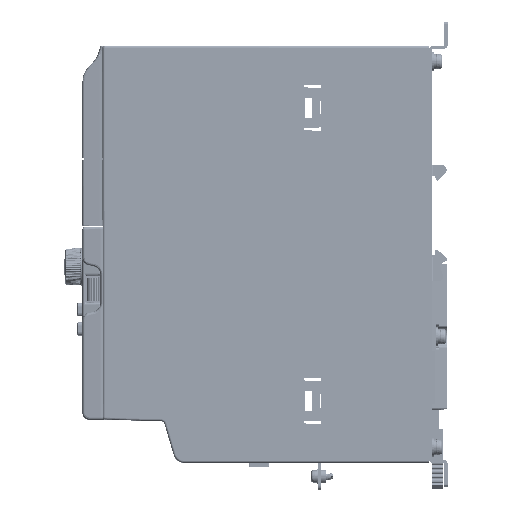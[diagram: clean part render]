
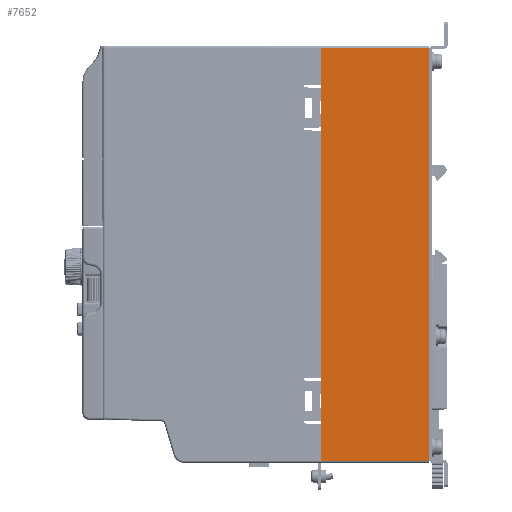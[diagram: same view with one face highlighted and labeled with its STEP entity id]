
A CAD part, left-side view. The second image highlights one B-rep face of the part: STEP entity #7652.
In plain terms, the highlighted planar face has unit normal (-1, 0, 0).
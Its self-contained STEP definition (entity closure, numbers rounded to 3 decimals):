
#1113=DIRECTION('',(0.,1.,0.));
#1114=VECTOR('',#1113,47.5);
#1115=CARTESIAN_POINT('',(-47.5,-47.5,91.5));
#1116=LINE('',#1115,#1114);
#3706=DIRECTION('',(0.,0.,-1.));
#3707=VECTOR('',#3706,183.);
#3708=CARTESIAN_POINT('',(-47.5,-47.5,91.5));
#3709=LINE('',#3708,#3707);
#3713=DIRECTION('',(0.,0.,1.));
#3714=VECTOR('',#3713,183.);
#3715=CARTESIAN_POINT('',(-47.5,0.,-91.5));
#3716=LINE('',#3715,#3714);
#3727=DIRECTION('',(0.,-1.,0.));
#3728=VECTOR('',#3727,47.5);
#3729=CARTESIAN_POINT('',(-47.5,0.,-91.5));
#3730=LINE('',#3729,#3728);
#4193=CARTESIAN_POINT('',(-47.5,-47.5,91.5));
#4195=VERTEX_POINT('',#4193);
#4197=CARTESIAN_POINT('',(-47.5,-47.5,-91.5));
#4198=VERTEX_POINT('',#4197);
#4208=CARTESIAN_POINT('',(-47.5,0.,91.5));
#4210=VERTEX_POINT('',#4208);
#4215=CARTESIAN_POINT('',(-47.5,0.,-91.5));
#4216=VERTEX_POINT('',#4215);
#7640=CARTESIAN_POINT('',(-47.5,0.,-92.5));
#7641=DIRECTION('',(-1.,0.,0.));
#7642=DIRECTION('',(0.,-1.,0.));
#7643=AXIS2_PLACEMENT_3D('',#7640,#7641,#7642);
#7644=PLANE('',#7643);
#7645=ORIENTED_EDGE('',*,*,#4996,.F.);
#7646=ORIENTED_EDGE('',*,*,#4962,.T.);
#7648=ORIENTED_EDGE('',*,*,#7647,.F.);
#7649=ORIENTED_EDGE('',*,*,#5023,.T.);
#7650=EDGE_LOOP('',(#7645,#7646,#7648,#7649));
#7651=FACE_OUTER_BOUND('',#7650,.F.);
#4962=EDGE_CURVE('',#4195,#4198,#3709,.T.);
#4996=EDGE_CURVE('',#4195,#4210,#1116,.T.);
#5023=EDGE_CURVE('',#4216,#4210,#3716,.T.);
#7647=EDGE_CURVE('',#4216,#4198,#3730,.T.);
#7652=ADVANCED_FACE('',(#7651),#7644,.T.);
